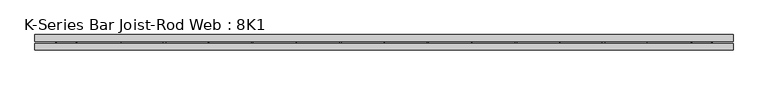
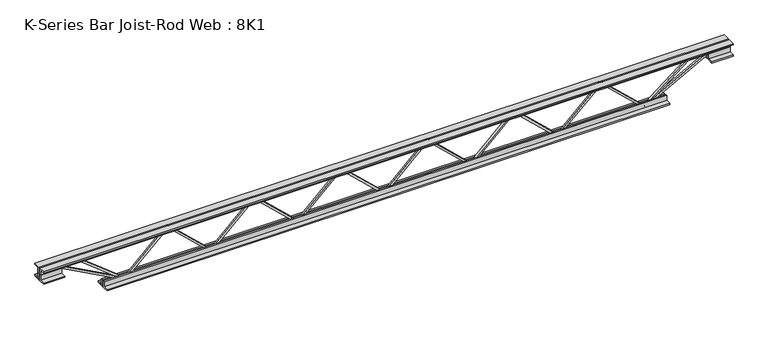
"""IFC4 building model written with IfcOpenShell, lengths in millimetres: beam geometry, K-Series Bar Joist-Rod Web : 8K1."""

from ifc_helpers import new_model, si_unit, frame, origin, place, context, project, spatial, polyline, outline, extrude, source, transform, mapped, element, save


def k_series_bar_joist_rod_web_8k1_b237b75d(model_context):
    return source(origin(), model_context, "Body", "SweptSolid", [
        extrude(outline(polyline([(-90.4875, 416.1530704), (-100.0125, 416.1530704), (-100.0125, 421.2213977), (90.4875, 622.9479329), (90.4875, 625.5112783), (-100.0125, 827.2378135), (-100.0125, 832.3061408), (-90.4875, 832.3061408), (-90.4875, 831.0244681), (100.0125, 629.2979329), (100.0125, 619.1612783), (-90.4875, 417.4347431), (-90.4875, 416.1530704)])), frame((0.0, -4.7625, 0.0), z_axis=(0.0, 1.0, 0.0), x_axis=(0.0, 0.0, 1.0)), (0.0, 0.0, 1.0), 9.525),
        extrude(outline(polyline([(-90.4875, 0.0), (-100.0125, 0.0), (-100.0125, 5.0683273), (90.4875, 206.7948625), (90.4875, 209.3582079), (-100.0125, 411.0847431), (-100.0125, 416.1530704), (-90.4875, 416.1530704), (-90.4875, 414.8713977), (100.0125, 213.1448625), (100.0125, 203.0082079), (-90.4875, 1.2816727), (-90.4875, 0.0)])), frame((0.0, -4.7625, 0.0), z_axis=(0.0, 1.0, 0.0), x_axis=(0.0, 0.0, 1.0)), (0.0, 0.0, 1.0), 9.525),
        extrude(outline(polyline([(-90.4875, -416.1530704), (-100.0125, -416.1530704), (-100.0125, -411.0847431), (90.4875, -209.3582079), (90.4875, -206.7948625), (-100.0125, -5.0683273), (-100.0125, 0.0), (-90.4875, 0.0), (-90.4875, -1.2816727), (100.0125, -203.0082079), (100.0125, -213.1448625), (-90.4875, -414.8713977), (-90.4875, -416.1530704)])), frame((0.0, -4.7625, 0.0), z_axis=(0.0, 1.0, 0.0), x_axis=(0.0, 0.0, 1.0)), (0.0, 0.0, 1.0), 9.525),
        extrude(outline(polyline([(-90.4875, -832.3061408), (-100.0125, -832.3061408), (-100.0125, -827.2378135), (90.4875, -625.5112783), (90.4875, -622.9479329), (-100.0125, -421.2213977), (-100.0125, -416.1530704), (-90.4875, -416.1530704), (-90.4875, -417.4347431), (100.0125, -619.1612783), (100.0125, -629.2979329), (-90.4875, -831.0244681), (-90.4875, -832.3061408)])), frame((0.0, -4.7625, 0.0), z_axis=(0.0, 1.0, 0.0), x_axis=(0.0, 0.0, 1.0)), (0.0, 0.0, 1.0), 9.525),
        extrude(outline(polyline([(-90.4875, 832.3061408), (-100.0125, 832.3061408), (-100.0125, 837.3744681), (90.4875, 1039.1010033), (90.4875, 1041.6643486), (-100.0125, 1243.3908838), (-100.0125, 1248.4592111), (-90.4875, 1248.4592111), (-90.4875, 1247.1775385), (100.0125, 1045.4510033), (100.0125, 1035.3143486), (-90.4875, 833.5878135), (-90.4875, 832.3061408)])), frame((0.0, -4.7625, 0.0), z_axis=(0.0, 1.0, 0.0), x_axis=(0.0, 0.0, 1.0)), (0.0, 0.0, 1.0), 9.525),
        extrude(outline(polyline([(-90.4875, -1248.4592111), (-100.0125, -1248.4592111), (-100.0125, -1243.3908838), (90.4875, -1041.6643486), (90.4875, -1039.1010033), (-100.0125, -837.3744681), (-100.0125, -832.3061408), (-90.4875, -832.3061408), (-90.4875, -833.5878135), (100.0125, -1035.3143486), (100.0125, -1045.4510033), (-90.4875, -1247.1775385), (-90.4875, -1248.4592111)])), frame((0.0, -4.7625, 0.0), z_axis=(0.0, 1.0, 0.0), x_axis=(0.0, 0.0, 1.0)), (0.0, 0.0, 1.0), 9.525),
        extrude(outline(polyline([(4.7625, 101.6), (36.5125, 101.6), (36.5125, 95.25), (11.1125, 95.25), (11.1125, 69.85), (4.7625, 69.85), (4.7625, 101.6)])), frame((-1654.8592111, 0.0, 0.0), z_axis=(1.0, 0.0, 0.0), x_axis=(0.0, 1.0, 0.0)), (0.0, 0.0, 1.0), 3309.7184223),
        extrude(outline(polyline([(-4.7625, 101.6), (-4.7625, 69.85), (-11.1125, 69.85), (-11.1125, 95.25), (-36.5125, 95.25), (-36.5125, 101.6), (-4.7625, 101.6)])), frame((-1654.8592111, 0.0, 0.0), z_axis=(1.0, 0.0, 0.0), x_axis=(0.0, 1.0, 0.0)), (0.0, 0.0, 1.0), 3309.7184223),
        extrude(outline(polyline([(-4.7625, 38.1), (-36.5125, 38.1), (-36.5125, 44.45), (-11.1125, 44.45), (-11.1125, 69.85), (-4.7625, 69.85), (-4.7625, 38.1)])), frame((-1654.8592111, 0.0, 0.0), z_axis=(1.0, 0.0, 0.0), x_axis=(0.0, 1.0, 0.0)), (0.0, 0.0, 1.0), 101.6),
        extrude(outline(polyline([(36.5125, 38.1), (4.7625, 38.1), (4.7625, 69.85), (11.1125, 69.85), (11.1125, 44.45), (36.5125, 44.45), (36.5125, 38.1)])), frame((-1654.8592111, 0.0, 0.0), z_axis=(1.0, 0.0, 0.0), x_axis=(0.0, 1.0, 0.0)), (0.0, 0.0, 1.0), 101.6),
        extrude(outline(polyline([(4.7625, 38.1), (4.7625, 69.85), (11.1125, 69.85), (11.1125, 44.45), (36.5125, 44.45), (36.5125, 38.1), (4.7625, 38.1)])), frame((1553.2592111, 0.0, 0.0), z_axis=(1.0, 0.0, 0.0), x_axis=(0.0, 1.0, 0.0)), (0.0, 0.0, 1.0), 101.6),
        extrude(outline(polyline([(-4.7625, 38.1), (-36.5125, 38.1), (-36.5125, 44.45), (-11.1125, 44.45), (-11.1125, 69.85), (-4.7625, 69.85), (-4.7625, 38.1)])), frame((1553.2592111, 0.0, 0.0), z_axis=(1.0, 0.0, 0.0), x_axis=(0.0, 1.0, 0.0)), (0.0, 0.0, 1.0), 101.6),
        extrude(outline(polyline([(4.7625, -101.6), (4.7625, -69.85), (11.1125, -69.85), (11.1125, -95.25), (36.5125, -95.25), (36.5125, -101.6), (4.7625, -101.6)])), frame((-1350.0592111, 0.0, 0.0), z_axis=(1.0, 0.0, 0.0), x_axis=(0.0, 1.0, 0.0)), (0.0, 0.0, 1.0), 2700.1184223),
        extrude(outline(polyline([(-4.7625, -101.6), (-36.5125, -101.6), (-36.5125, -95.25), (-11.1125, -95.25), (-11.1125, -69.85), (-4.7625, -69.85), (-4.7625, -101.6)])), frame((-1350.0592111, 0.0, 0.0), z_axis=(1.0, 0.0, 0.0), x_axis=(0.0, 1.0, 0.0)), (0.0, 0.0, 1.0), 2700.1184223),
        extrude(outline(polyline([(0.0, -9.525), (0.0, 0.0), (346.6425392, 0.0), (346.6425392, -9.525), (0.0, -9.525)])), frame((-1555.5275096, 4.7625, 65.662372), z_axis=(0.47628314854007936, 0.0, 0.8792919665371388), x_axis=(0.8792919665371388, 0.0, -0.47628314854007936)), (0.0, 0.0, 1.0), 9.525),
        extrude(outline(polyline([(0.0, -9.525), (0.0, 0.0), (265.6197555, 0.0), (265.6197555, -9.525), (0.0, -9.525)])), frame((-1459.4959507, 4.7625, 66.1192365), z_axis=(0.6215652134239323, 0.0, 0.7833624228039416), x_axis=(0.7833624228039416, 0.0, -0.6215652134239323)), (0.0, 0.0, 1.0), 9.525),
        extrude(outline(polyline([(0.0, -9.525), (0.0, 0.0), (346.6425392, 0.0), (346.6425392, -9.525), (0.0, -9.525)])), frame((1555.5275096, -4.7625, 65.662372), z_axis=(-0.4762831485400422, 0.0, 0.8792919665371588), x_axis=(-0.8792919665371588, 0.0, -0.4762831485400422)), (0.0, 0.0, 1.0), 9.525),
        extrude(outline(polyline([(0.0, -9.525), (0.0, 0.0), (265.6197555, 0.0), (265.6197555, -9.525), (0.0, -9.525)])), frame((1459.4959507, -4.7625, 66.1192365), z_axis=(-0.6215652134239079, 0.0, 0.7833624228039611), x_axis=(-0.7833624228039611, 0.0, -0.6215652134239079)), (0.0, 0.0, 1.0), 9.525),
    ])


if __name__ == "__main__":
    model = new_model("IFC4")
    model_context = context("Model", 3, world=origin())
    ifc_project = project(units=[si_unit("LENGTHUNIT", "METRE", prefix="MILLI")], contexts=[model_context])
    site = spatial("IfcSite", under=ifc_project)
    building = spatial("IfcBuilding", under=site)
    placement = place(None, origin())
    k_series_bar_joist_rod_web_8k1_shape = k_series_bar_joist_rod_web_8k1_b237b75d(model_context)
    element("IfcBeam", 1, ObjectType="K-Series Bar Joist-Rod Web : 8K1", at=placement, inside=building, context=model_context, shape_type="MappedRepresentation", body=[
        mapped(k_series_bar_joist_rod_web_8k1_shape, transform((0.0, 0.0, 0.0), x_axis=(1.0, 0.0, 0.0), y_axis=(0.0, 1.0, 0.0), z_axis=(0.0, 0.0, 1.0))),
    ])
    save(model, "model.ifc")
